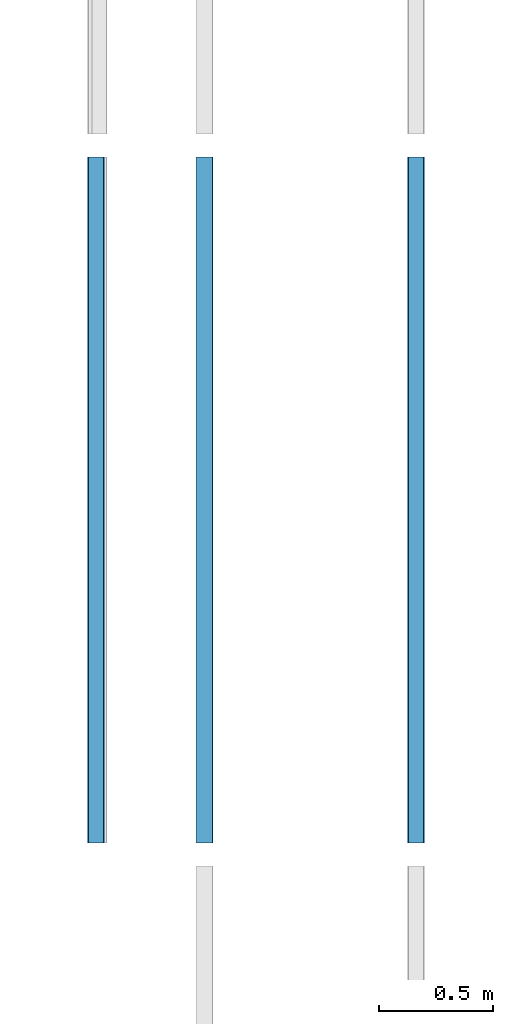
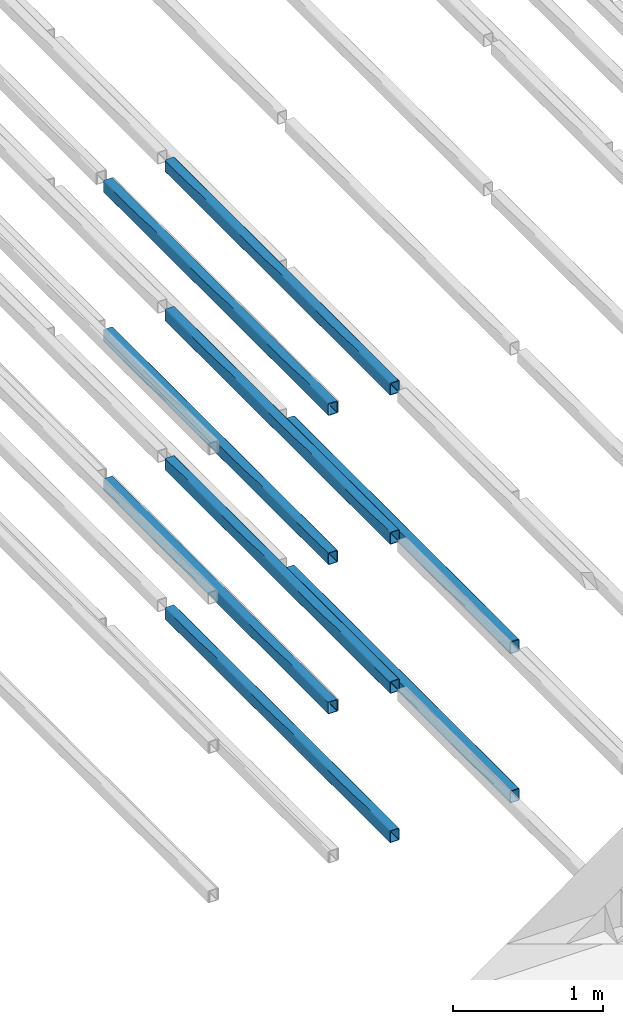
# One storey, part 21 of 290: 9 beams.
"""IFC2X3 building model written with IfcOpenShell, lengths in metres."""

from ifc_helpers import new_model, entity, si_unit, converted_unit, derived_unit, direction, frame, frame_2d, origin, place, context, subcontext, project, spatial, polyline, circle_curve, parameter, trimmed, segment, composite_curve, outline, extrude, material, type_object, element, save


model = new_model("IFC2X3")

# Units and contexts
model_context = context("Model", 3, precision=1e-05, world=origin(), true_north=direction((6.12303176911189e-17, 1.0)))
body_context = subcontext(model_context, "Body", "Model", "MODEL_VIEW")
ifc_project = project(units=[si_unit("LENGTHUNIT", "METRE"), si_unit("AREAUNIT", "SQUARE_METRE"), si_unit("VOLUMEUNIT", "CUBIC_METRE"), converted_unit("PLANEANGLEUNIT", "DEGREE", entity("IfcRatioMeasure", 0.0174532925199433), si_unit("PLANEANGLEUNIT", "RADIAN"), dimensions=[0, 0, 0, 0, 0, 0, 0]), si_unit("MASSUNIT", "GRAM", prefix="KILO"), derived_unit("MASSDENSITYUNIT", [(si_unit("MASSUNIT", "GRAM", prefix="KILO"), 1), (si_unit("LENGTHUNIT", "METRE"), -3)]), derived_unit("MOMENTOFINERTIAUNIT", [(si_unit("LENGTHUNIT", "METRE"), 4)]), si_unit("TIMEUNIT", "SECOND"), si_unit("FREQUENCYUNIT", "HERTZ"), si_unit("THERMODYNAMICTEMPERATUREUNIT", "DEGREE_CELSIUS"), derived_unit("THERMALTRANSMITTANCEUNIT", [(si_unit("MASSUNIT", "GRAM", prefix="KILO"), 1), (si_unit("THERMODYNAMICTEMPERATUREUNIT", "KELVIN"), -1), (si_unit("TIMEUNIT", "SECOND"), -3)]), derived_unit("VOLUMETRICFLOWRATEUNIT", [(si_unit("LENGTHUNIT", "METRE"), 3), (si_unit("TIMEUNIT", "SECOND"), -1)]), si_unit("ELECTRICCURRENTUNIT", "AMPERE"), si_unit("ELECTRICVOLTAGEUNIT", "VOLT"), si_unit("POWERUNIT", "WATT"), si_unit("FORCEUNIT", "NEWTON", prefix="KILO"), si_unit("ILLUMINANCEUNIT", "LUX"), si_unit("LUMINOUSFLUXUNIT", "LUMEN"), si_unit("LUMINOUSINTENSITYUNIT", "CANDELA"), derived_unit("USERDEFINED", [(si_unit("MASSUNIT", "GRAM", prefix="KILO"), -1), (si_unit("LENGTHUNIT", "METRE"), -2), (si_unit("TIMEUNIT", "SECOND"), 3), (si_unit("LUMINOUSFLUXUNIT", "LUMEN"), 1)]), derived_unit("LINEARVELOCITYUNIT", [(si_unit("LENGTHUNIT", "METRE"), 1), (si_unit("TIMEUNIT", "SECOND"), -1)]), si_unit("PRESSUREUNIT", "PASCAL"), derived_unit("USERDEFINED", [(si_unit("LENGTHUNIT", "METRE"), -2), (si_unit("MASSUNIT", "GRAM", prefix="KILO"), 1), (si_unit("TIMEUNIT", "SECOND"), -2)]), derived_unit("LINEARFORCEUNIT", [(si_unit("MASSUNIT", "GRAM", prefix="KILO"), 1), (si_unit("LENGTHUNIT", "METRE"), 1), (si_unit("TIMEUNIT", "SECOND"), -2), (si_unit("LENGTHUNIT", "METRE"), -1)]), derived_unit("PLANARFORCEUNIT", [(si_unit("MASSUNIT", "GRAM", prefix="KILO"), 1), (si_unit("LENGTHUNIT", "METRE"), 1), (si_unit("TIMEUNIT", "SECOND"), -2), (si_unit("LENGTHUNIT", "METRE"), -2)])], contexts=[model_context])

# Site, building, storey
site_placement = place(None, origin())
site = spatial("IfcSite", under=ifc_project, at=site_placement, Name="Default", CompositionType="ELEMENT")
building_placement = place(site_placement, origin())
building = spatial("IfcBuilding", under=site, at=building_placement, CompositionType="ELEMENT")
storey_placement = place(building_placement, frame((0.0, 0.0, 4.0)))
storey = spatial("IfcBuildingStorey", under=building, at=storey_placement, Name="01_OG", CompositionType="ELEMENT", Elevation=4.0)

# Beams
ifc_material = material(Name="Metall - Baustahl S235 blau")
beam_type = type_object("IfcBeamType", Name="RHS Träger (EN 10219-2):RHS 100 x 75 x 5", PredefinedType="NOTDEFINED")
beam_1_placement = place(storey_placement, frame((-200.715111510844, 27.148088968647, -1.2), z_axis=(0.0, 0.0, 1.0), x_axis=(0.0, 1.0, 0.0)))
element("IfcBeam", 1, at=beam_1_placement, inside=storey, type_object=beam_type, material=ifc_material, Name="RHS Träger (EN 10219-2):RHS 100 x 75 x 5", ObjectType="RHS Träger (EN 10219-2):RHS 100 x 75 x 5", context=body_context, shape_type="SweptSolid", body=[
    extrude(outline(composite_curve([segment(trimmed(circle_curve(frame_2d((-0.0274999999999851, -0.0400000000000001), x_axis=(1.0, 0.0)), 0.01), [parameter(180.0)], [parameter(270.0)], True, "PARAMETER"), True, "CONTINUOUS"), segment(polyline([(-0.0274999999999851, -0.05), (0.0274999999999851, -0.05)]), True, "CONTINUOUS"), segment(trimmed(circle_curve(frame_2d((0.0274999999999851, -0.0400000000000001), x_axis=(1.0, 0.0)), 0.01), [parameter(270.0)], [parameter(5.08888749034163e-14)], True, "PARAMETER"), True, "CONTINUOUS"), segment(polyline([(0.0375000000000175, -0.0400000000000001), (0.0375000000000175, 0.0400000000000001)]), True, "CONTINUOUS"), segment(trimmed(circle_curve(frame_2d((0.0274999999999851, 0.0400000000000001), x_axis=(1.0, 0.0)), 0.01), [parameter(360.0)], [parameter(89.9999999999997)], True, "PARAMETER"), True, "CONTINUOUS"), segment(polyline([(0.0274999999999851, 0.05), (-0.0274999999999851, 0.05)]), True, "CONTINUOUS"), segment(trimmed(circle_curve(frame_2d((-0.0274999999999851, 0.0400000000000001), x_axis=(1.0, 0.0)), 0.01), [parameter(90.0000000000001)], [parameter(180.0)], True, "PARAMETER"), True, "CONTINUOUS"), segment(polyline([(-0.0374999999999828, 0.0400000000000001), (-0.0374999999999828, -0.0400000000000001)]), True, "CONTINUOUS")], self_intersect=False), holes=[composite_curve([segment(polyline([(0.0274999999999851, -0.0450000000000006), (-0.0274999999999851, -0.0450000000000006)]), True, "CONTINUOUS"), segment(trimmed(circle_curve(frame_2d((-0.0274999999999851, -0.0400000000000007), x_axis=(1.0, 0.0)), 0.005), [parameter(180.0)], [parameter(270.0)], True, "PARAMETER"), False, "CONTINUOUS"), segment(polyline([(-0.0325000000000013, -0.0400000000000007), (-0.0325000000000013, 0.039999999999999)]), True, "CONTINUOUS"), segment(trimmed(circle_curve(frame_2d((-0.0274999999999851, 0.039999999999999), x_axis=(1.0, 0.0)), 0.005), [parameter(90.0000000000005)], [parameter(180.0)], True, "PARAMETER"), False, "CONTINUOUS"), segment(polyline([(-0.0274999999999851, 0.044999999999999), (0.0274999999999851, 0.044999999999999)]), True, "CONTINUOUS"), segment(trimmed(circle_curve(frame_2d((0.0274999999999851, 0.039999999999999), x_axis=(1.0, 0.0)), 0.005), [parameter(0.0)], [parameter(90.0000000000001)], True, "PARAMETER"), False, "CONTINUOUS"), segment(polyline([(0.0325000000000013, 0.039999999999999), (0.0325000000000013, -0.0400000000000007)]), True, "CONTINUOUS"), segment(trimmed(circle_curve(frame_2d((0.0274999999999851, -0.0400000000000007), x_axis=(1.0, 0.0)), 0.005), [parameter(270.0)], [parameter(4.07110999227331e-13)], True, "PARAMETER"), False, "CONTINUOUS")], self_intersect=False)]), frame((9.99999999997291e-05, 0.0375000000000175, -0.0500000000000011), z_axis=(1.0, 0.0, 0.0), x_axis=(0.0, -1.0, 0.0)), (0.0, 0.0, 1.0), 2.9998),
])
beam_2_placement = place(storey_placement, frame((-200.715111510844, 27.148088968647, 0.0150000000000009), z_axis=(0.0, 0.0, 1.0), x_axis=(0.0, 1.0, 0.0)))
element("IfcBeam", 2, at=beam_2_placement, inside=storey, type_object=beam_type, material=ifc_material, Name="RHS Träger (EN 10219-2):RHS 100 x 75 x 5", ObjectType="RHS Träger (EN 10219-2):RHS 100 x 75 x 5", context=body_context, shape_type="SweptSolid", body=[
    extrude(outline(composite_curve([segment(trimmed(circle_curve(frame_2d((-0.0274999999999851, -0.0400000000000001), x_axis=(1.0, 0.0)), 0.01), [parameter(180.0)], [parameter(270.0)], True, "PARAMETER"), True, "CONTINUOUS"), segment(polyline([(-0.0274999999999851, -0.05), (0.0274999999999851, -0.05)]), True, "CONTINUOUS"), segment(trimmed(circle_curve(frame_2d((0.0274999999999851, -0.0400000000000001), x_axis=(1.0, 0.0)), 0.01), [parameter(270.0)], [parameter(5.08888749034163e-14)], True, "PARAMETER"), True, "CONTINUOUS"), segment(polyline([(0.0375000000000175, -0.0400000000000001), (0.0375000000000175, 0.0400000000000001)]), True, "CONTINUOUS"), segment(trimmed(circle_curve(frame_2d((0.0274999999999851, 0.0400000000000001), x_axis=(1.0, 0.0)), 0.01), [parameter(360.0)], [parameter(89.9999999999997)], True, "PARAMETER"), True, "CONTINUOUS"), segment(polyline([(0.0274999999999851, 0.05), (-0.0274999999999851, 0.05)]), True, "CONTINUOUS"), segment(trimmed(circle_curve(frame_2d((-0.0274999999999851, 0.0400000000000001), x_axis=(1.0, 0.0)), 0.01), [parameter(90.0000000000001)], [parameter(180.0)], True, "PARAMETER"), True, "CONTINUOUS"), segment(polyline([(-0.0374999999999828, 0.0400000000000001), (-0.0374999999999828, -0.0400000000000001)]), True, "CONTINUOUS")], self_intersect=False), holes=[composite_curve([segment(polyline([(0.0274999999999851, -0.0450000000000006), (-0.0274999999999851, -0.0450000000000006)]), True, "CONTINUOUS"), segment(trimmed(circle_curve(frame_2d((-0.0274999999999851, -0.0400000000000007), x_axis=(1.0, 0.0)), 0.005), [parameter(180.0)], [parameter(270.0)], True, "PARAMETER"), False, "CONTINUOUS"), segment(polyline([(-0.0325000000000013, -0.0400000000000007), (-0.0325000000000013, 0.039999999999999)]), True, "CONTINUOUS"), segment(trimmed(circle_curve(frame_2d((-0.0274999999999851, 0.039999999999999), x_axis=(1.0, 0.0)), 0.005), [parameter(90.0000000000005)], [parameter(180.0)], True, "PARAMETER"), False, "CONTINUOUS"), segment(polyline([(-0.0274999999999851, 0.044999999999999), (0.0274999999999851, 0.044999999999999)]), True, "CONTINUOUS"), segment(trimmed(circle_curve(frame_2d((0.0274999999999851, 0.039999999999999), x_axis=(1.0, 0.0)), 0.005), [parameter(0.0)], [parameter(90.0000000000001)], True, "PARAMETER"), False, "CONTINUOUS"), segment(polyline([(0.0325000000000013, 0.039999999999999), (0.0325000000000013, -0.0400000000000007)]), True, "CONTINUOUS"), segment(trimmed(circle_curve(frame_2d((0.0274999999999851, -0.0400000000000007), x_axis=(1.0, 0.0)), 0.005), [parameter(270.0)], [parameter(4.07110999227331e-13)], True, "PARAMETER"), False, "CONTINUOUS")], self_intersect=False)]), frame((9.99999999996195e-05, 0.0375000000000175, -0.0500000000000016), z_axis=(1.0, 0.0, 0.0), x_axis=(0.0, -1.0, 0.0)), (0.0, 0.0, 1.0), 2.9998),
])
beam_3_placement = place(storey_placement, frame((-200.715111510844, 27.148088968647, 1.23), z_axis=(0.0, 0.0, 1.0), x_axis=(0.0, 1.0, 0.0)))
element("IfcBeam", 3, at=beam_3_placement, inside=storey, type_object=beam_type, material=ifc_material, Name="RHS Träger (EN 10219-2):RHS 100 x 75 x 5", ObjectType="RHS Träger (EN 10219-2):RHS 100 x 75 x 5", context=body_context, shape_type="SweptSolid", body=[
    extrude(outline(composite_curve([segment(trimmed(circle_curve(frame_2d((-0.0274999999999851, -0.0399999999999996), x_axis=(1.0, 0.0)), 0.01), [parameter(180.0)], [parameter(270.0)], True, "PARAMETER"), True, "CONTINUOUS"), segment(polyline([(-0.0274999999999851, -0.0499999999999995), (0.0274999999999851, -0.0499999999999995)]), True, "CONTINUOUS"), segment(trimmed(circle_curve(frame_2d((0.0274999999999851, -0.0399999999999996), x_axis=(1.0, 0.0)), 0.01), [parameter(270.0)], [parameter(5.08888749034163e-14)], True, "PARAMETER"), True, "CONTINUOUS"), segment(polyline([(0.0375000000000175, -0.0399999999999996), (0.0375000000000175, 0.0399999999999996)]), True, "CONTINUOUS"), segment(trimmed(circle_curve(frame_2d((0.0274999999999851, 0.0399999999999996), x_axis=(1.0, 0.0)), 0.01), [parameter(360.0)], [parameter(89.9999999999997)], True, "PARAMETER"), True, "CONTINUOUS"), segment(polyline([(0.0274999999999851, 0.0500000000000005), (-0.0274999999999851, 0.0500000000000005)]), True, "CONTINUOUS"), segment(trimmed(circle_curve(frame_2d((-0.0274999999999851, 0.0399999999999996), x_axis=(1.0, 0.0)), 0.01), [parameter(90.0000000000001)], [parameter(180.0)], True, "PARAMETER"), True, "CONTINUOUS"), segment(polyline([(-0.0374999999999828, 0.0399999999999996), (-0.0374999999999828, -0.0399999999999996)]), True, "CONTINUOUS")], self_intersect=False), holes=[composite_curve([segment(polyline([(0.0274999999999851, -0.0450000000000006), (-0.0274999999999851, -0.0450000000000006)]), True, "CONTINUOUS"), segment(trimmed(circle_curve(frame_2d((-0.0274999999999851, -0.0400000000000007), x_axis=(1.0, 0.0)), 0.005), [parameter(180.0)], [parameter(270.0)], True, "PARAMETER"), False, "CONTINUOUS"), segment(polyline([(-0.0325000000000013, -0.0400000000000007), (-0.0325000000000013, 0.0399999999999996)]), True, "CONTINUOUS"), segment(trimmed(circle_curve(frame_2d((-0.0274999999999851, 0.0399999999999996), x_axis=(1.0, 0.0)), 0.005), [parameter(90.0000000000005)], [parameter(180.0)], True, "PARAMETER"), False, "CONTINUOUS"), segment(polyline([(-0.0274999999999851, 0.0449999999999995), (0.0274999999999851, 0.0449999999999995)]), True, "CONTINUOUS"), segment(trimmed(circle_curve(frame_2d((0.0274999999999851, 0.0399999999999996), x_axis=(1.0, 0.0)), 0.005), [parameter(0.0)], [parameter(90.0000000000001)], True, "PARAMETER"), False, "CONTINUOUS"), segment(polyline([(0.0325000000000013, 0.0399999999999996), (0.0325000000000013, -0.0400000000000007)]), True, "CONTINUOUS"), segment(trimmed(circle_curve(frame_2d((0.0274999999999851, -0.0400000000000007), x_axis=(1.0, 0.0)), 0.005), [parameter(270.0)], [parameter(4.07110999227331e-13)], True, "PARAMETER"), False, "CONTINUOUS")], self_intersect=False)]), frame((9.99999999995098e-05, 0.0375000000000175, -0.0500000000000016), z_axis=(1.0, 0.0, 0.0), x_axis=(0.0, -1.0, 0.0)), (0.0, 0.0, 1.0), 2.9998),
])
beam_4_placement = place(storey_placement, frame((-200.715111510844, 27.148088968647, 2.445), z_axis=(0.0, 0.0, 1.0), x_axis=(0.0, 1.0, 0.0)))
element("IfcBeam", 4, at=beam_4_placement, inside=storey, type_object=beam_type, material=ifc_material, Name="RHS Träger (EN 10219-2):RHS 100 x 75 x 5", ObjectType="RHS Träger (EN 10219-2):RHS 100 x 75 x 5", context=body_context, shape_type="SweptSolid", body=[
    extrude(outline(composite_curve([segment(trimmed(circle_curve(frame_2d((-0.0274999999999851, -0.0399999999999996), x_axis=(1.0, 0.0)), 0.01), [parameter(180.0)], [parameter(270.0)], True, "PARAMETER"), True, "CONTINUOUS"), segment(polyline([(-0.0274999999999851, -0.0499999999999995), (0.0274999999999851, -0.0499999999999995)]), True, "CONTINUOUS"), segment(trimmed(circle_curve(frame_2d((0.0274999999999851, -0.0399999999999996), x_axis=(1.0, 0.0)), 0.01), [parameter(270.0)], [parameter(5.08888749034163e-14)], True, "PARAMETER"), True, "CONTINUOUS"), segment(polyline([(0.0375000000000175, -0.0399999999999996), (0.0375000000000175, 0.0399999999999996)]), True, "CONTINUOUS"), segment(trimmed(circle_curve(frame_2d((0.0274999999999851, 0.0399999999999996), x_axis=(1.0, 0.0)), 0.01), [parameter(360.0)], [parameter(89.9999999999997)], True, "PARAMETER"), True, "CONTINUOUS"), segment(polyline([(0.0274999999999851, 0.0500000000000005), (-0.0274999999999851, 0.0500000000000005)]), True, "CONTINUOUS"), segment(trimmed(circle_curve(frame_2d((-0.0274999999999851, 0.0399999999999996), x_axis=(1.0, 0.0)), 0.01), [parameter(90.0000000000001)], [parameter(180.0)], True, "PARAMETER"), True, "CONTINUOUS"), segment(polyline([(-0.0374999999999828, 0.0399999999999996), (-0.0374999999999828, -0.0399999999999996)]), True, "CONTINUOUS")], self_intersect=False), holes=[composite_curve([segment(polyline([(0.0274999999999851, -0.0450000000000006), (-0.0274999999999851, -0.0450000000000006)]), True, "CONTINUOUS"), segment(trimmed(circle_curve(frame_2d((-0.0274999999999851, -0.0400000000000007), x_axis=(1.0, 0.0)), 0.005), [parameter(180.0)], [parameter(270.0)], True, "PARAMETER"), False, "CONTINUOUS"), segment(polyline([(-0.0325000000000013, -0.0400000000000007), (-0.0325000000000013, 0.0399999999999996)]), True, "CONTINUOUS"), segment(trimmed(circle_curve(frame_2d((-0.0274999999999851, 0.0399999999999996), x_axis=(1.0, 0.0)), 0.005), [parameter(90.0000000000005)], [parameter(180.0)], True, "PARAMETER"), False, "CONTINUOUS"), segment(polyline([(-0.0274999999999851, 0.0449999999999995), (0.0274999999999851, 0.0449999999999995)]), True, "CONTINUOUS"), segment(trimmed(circle_curve(frame_2d((0.0274999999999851, 0.0399999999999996), x_axis=(1.0, 0.0)), 0.005), [parameter(0.0)], [parameter(90.0000000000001)], True, "PARAMETER"), False, "CONTINUOUS"), segment(polyline([(0.0325000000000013, 0.0399999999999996), (0.0325000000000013, -0.0400000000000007)]), True, "CONTINUOUS"), segment(trimmed(circle_curve(frame_2d((0.0274999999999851, -0.0400000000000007), x_axis=(1.0, 0.0)), 0.005), [parameter(270.0)], [parameter(4.07110999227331e-13)], True, "PARAMETER"), False, "CONTINUOUS")], self_intersect=False)]), frame((9.99999999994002e-05, 0.0375000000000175, -0.0500000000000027), z_axis=(1.0, 0.0, 0.0), x_axis=(0.0, -1.0, 0.0)), (0.0, 0.0, 1.0), 2.9998),
])
beam_5_placement = place(storey_placement, frame((-199.865111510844, 27.148088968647, -1.2), z_axis=(0.0, 0.0, 1.0), x_axis=(0.0, 1.0, 0.0)))
element("IfcBeam", 5, at=beam_5_placement, inside=storey, type_object=beam_type, material=ifc_material, Name="RHS Träger (EN 10219-2):RHS 100 x 75 x 5", ObjectType="RHS Träger (EN 10219-2):RHS 100 x 75 x 5", context=body_context, shape_type="SweptSolid", body=[
    extrude(outline(composite_curve([segment(polyline([(-0.0400000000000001, -0.0374999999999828), (0.0400000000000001, -0.0374999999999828)]), True, "CONTINUOUS"), segment(trimmed(circle_curve(frame_2d((0.0400000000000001, -0.0274999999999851), x_axis=(0.0, 1.0)), 0.01), [parameter(180.0)], [parameter(270.0)], True, "PARAMETER"), True, "CONTINUOUS"), segment(polyline([(0.05, -0.0274999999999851), (0.05, 0.0274999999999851)]), True, "CONTINUOUS"), segment(trimmed(circle_curve(frame_2d((0.0400000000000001, 0.0274999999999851), x_axis=(0.0, 1.0)), 0.01), [parameter(270.0)], [parameter(4.07110999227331e-13)], True, "PARAMETER"), True, "CONTINUOUS"), segment(polyline([(0.0400000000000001, 0.0375000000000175), (-0.0400000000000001, 0.0375000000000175)]), True, "CONTINUOUS"), segment(trimmed(circle_curve(frame_2d((-0.0400000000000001, 0.0274999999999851), x_axis=(0.0, 1.0)), 0.01), [parameter(360.0)], [parameter(90.0000000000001)], True, "PARAMETER"), True, "CONTINUOUS"), segment(polyline([(-0.05, 0.0274999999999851), (-0.05, -0.0274999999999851)]), True, "CONTINUOUS"), segment(trimmed(circle_curve(frame_2d((-0.0400000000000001, -0.0274999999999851), x_axis=(0.0, 1.0)), 0.01), [parameter(90.0000000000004)], [parameter(180.0)], True, "PARAMETER"), True, "CONTINUOUS")], self_intersect=False), holes=[composite_curve([segment(trimmed(circle_curve(frame_2d((-0.0400000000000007, 0.0274999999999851), x_axis=(0.0, 1.0)), 0.005), [parameter(360.0)], [parameter(89.9999999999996)], True, "PARAMETER"), False, "CONTINUOUS"), segment(polyline([(-0.0400000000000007, 0.0325000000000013), (0.039999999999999, 0.0325000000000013)]), True, "CONTINUOUS"), segment(trimmed(circle_curve(frame_2d((0.039999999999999, 0.0274999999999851), x_axis=(0.0, 1.0)), 0.005), [parameter(270.0)], [parameter(0.0)], True, "PARAMETER"), False, "CONTINUOUS"), segment(polyline([(0.044999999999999, 0.0274999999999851), (0.044999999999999, -0.0274999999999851)]), True, "CONTINUOUS"), segment(trimmed(circle_curve(frame_2d((0.039999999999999, -0.0274999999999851), x_axis=(0.0, 1.0)), 0.005), [parameter(180.0)], [parameter(269.999999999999)], True, "PARAMETER"), False, "CONTINUOUS"), segment(polyline([(0.039999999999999, -0.0325000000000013), (-0.0400000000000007, -0.0325000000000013)]), True, "CONTINUOUS"), segment(trimmed(circle_curve(frame_2d((-0.0400000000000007, -0.0274999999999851), x_axis=(0.0, 1.0)), 0.005), [parameter(90.0000000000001)], [parameter(180.0)], True, "PARAMETER"), False, "CONTINUOUS"), segment(polyline([(-0.0450000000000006, -0.0274999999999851), (-0.0450000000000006, 0.0274999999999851)]), True, "CONTINUOUS")], self_intersect=False)]), frame((9.99999999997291e-05, -0.0375000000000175, -0.0500000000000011), z_axis=(1.0, 0.0, 0.0), x_axis=(0.0, 0.0, -1.0)), (0.0, 0.0, 1.0), 2.9998),
])
beam_6_placement = place(storey_placement, frame((-199.865111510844, 27.148088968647, 0.0150000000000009), z_axis=(0.0, 0.0, 1.0), x_axis=(0.0, 1.0, 0.0)))
element("IfcBeam", 6, at=beam_6_placement, inside=storey, type_object=beam_type, material=ifc_material, Name="RHS Träger (EN 10219-2):RHS 100 x 75 x 5", ObjectType="RHS Träger (EN 10219-2):RHS 100 x 75 x 5", context=body_context, shape_type="SweptSolid", body=[
    extrude(outline(composite_curve([segment(polyline([(-0.0400000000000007, -0.0374999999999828), (0.0399999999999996, -0.0374999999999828)]), True, "CONTINUOUS"), segment(trimmed(circle_curve(frame_2d((0.0399999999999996, -0.0274999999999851), x_axis=(0.0, 1.0)), 0.01), [parameter(180.0)], [parameter(270.0)], True, "PARAMETER"), True, "CONTINUOUS"), segment(polyline([(0.0499999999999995, -0.0274999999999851), (0.0499999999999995, 0.0274999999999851)]), True, "CONTINUOUS"), segment(trimmed(circle_curve(frame_2d((0.0399999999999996, 0.0274999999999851), x_axis=(0.0, 1.0)), 0.01), [parameter(270.0)], [parameter(4.07110999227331e-13)], True, "PARAMETER"), True, "CONTINUOUS"), segment(polyline([(0.0399999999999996, 0.0375000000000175), (-0.0400000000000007, 0.0375000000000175)]), True, "CONTINUOUS"), segment(trimmed(circle_curve(frame_2d((-0.0400000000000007, 0.0274999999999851), x_axis=(0.0, 1.0)), 0.01), [parameter(360.0)], [parameter(90.0000000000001)], True, "PARAMETER"), True, "CONTINUOUS"), segment(polyline([(-0.0500000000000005, 0.0274999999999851), (-0.0500000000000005, -0.0274999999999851)]), True, "CONTINUOUS"), segment(trimmed(circle_curve(frame_2d((-0.0400000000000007, -0.0274999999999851), x_axis=(0.0, 1.0)), 0.01), [parameter(90.0000000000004)], [parameter(180.0)], True, "PARAMETER"), True, "CONTINUOUS")], self_intersect=False), holes=[composite_curve([segment(trimmed(circle_curve(frame_2d((-0.0400000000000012, 0.0274999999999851), x_axis=(0.0, 1.0)), 0.005), [parameter(360.0)], [parameter(89.9999999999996)], True, "PARAMETER"), False, "CONTINUOUS"), segment(polyline([(-0.0400000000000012, 0.0325000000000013), (0.0399999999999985, 0.0325000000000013)]), True, "CONTINUOUS"), segment(trimmed(circle_curve(frame_2d((0.0399999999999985, 0.0274999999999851), x_axis=(0.0, 1.0)), 0.005), [parameter(270.0)], [parameter(0.0)], True, "PARAMETER"), False, "CONTINUOUS"), segment(polyline([(0.0449999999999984, 0.0274999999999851), (0.0449999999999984, -0.0274999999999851)]), True, "CONTINUOUS"), segment(trimmed(circle_curve(frame_2d((0.0399999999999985, -0.0274999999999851), x_axis=(0.0, 1.0)), 0.005), [parameter(180.0)], [parameter(269.999999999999)], True, "PARAMETER"), False, "CONTINUOUS"), segment(polyline([(0.0399999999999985, -0.0325000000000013), (-0.0400000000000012, -0.0325000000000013)]), True, "CONTINUOUS"), segment(trimmed(circle_curve(frame_2d((-0.0400000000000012, -0.0274999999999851), x_axis=(0.0, 1.0)), 0.005), [parameter(90.0000000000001)], [parameter(180.0)], True, "PARAMETER"), False, "CONTINUOUS"), segment(polyline([(-0.0450000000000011, -0.0274999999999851), (-0.0450000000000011, 0.0274999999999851)]), True, "CONTINUOUS")], self_intersect=False)]), frame((9.99999999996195e-05, -0.0375000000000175, -0.0500000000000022), z_axis=(1.0, 0.0, 0.0), x_axis=(0.0, 0.0, -1.0)), (0.0, 0.0, 1.0), 2.9998),
])
beam_7_placement = place(storey_placement, frame((-201.265111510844, 27.148088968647, 0.0150000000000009), z_axis=(0.0, 0.0, 1.0), x_axis=(0.0, 1.0, 0.0)))
element("IfcBeam", 7, at=beam_7_placement, inside=storey, type_object=beam_type, material=ifc_material, Name="RHS Träger (EN 10219-2):RHS 100 x 75 x 5", ObjectType="RHS Träger (EN 10219-2):RHS 100 x 75 x 5", context=body_context, shape_type="SweptSolid", body=[
    extrude(outline(composite_curve([segment(polyline([(-0.0400000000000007, -0.0374999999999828), (0.0399999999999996, -0.0374999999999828)]), True, "CONTINUOUS"), segment(trimmed(circle_curve(frame_2d((0.0399999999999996, -0.0274999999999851), x_axis=(0.0, 1.0)), 0.01), [parameter(180.0)], [parameter(270.0)], True, "PARAMETER"), True, "CONTINUOUS"), segment(polyline([(0.0499999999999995, -0.0274999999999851), (0.0499999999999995, 0.0274999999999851)]), True, "CONTINUOUS"), segment(trimmed(circle_curve(frame_2d((0.0399999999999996, 0.0274999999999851), x_axis=(0.0, 1.0)), 0.01), [parameter(270.0)], [parameter(4.07110999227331e-13)], True, "PARAMETER"), True, "CONTINUOUS"), segment(polyline([(0.0399999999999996, 0.0375000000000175), (-0.0400000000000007, 0.0375000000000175)]), True, "CONTINUOUS"), segment(trimmed(circle_curve(frame_2d((-0.0400000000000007, 0.0274999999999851), x_axis=(0.0, 1.0)), 0.01), [parameter(360.0)], [parameter(90.0000000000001)], True, "PARAMETER"), True, "CONTINUOUS"), segment(polyline([(-0.0500000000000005, 0.0274999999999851), (-0.0500000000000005, -0.0274999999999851)]), True, "CONTINUOUS"), segment(trimmed(circle_curve(frame_2d((-0.0400000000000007, -0.0274999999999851), x_axis=(0.0, 1.0)), 0.01), [parameter(90.0000000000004)], [parameter(180.0)], True, "PARAMETER"), True, "CONTINUOUS")], self_intersect=False), holes=[composite_curve([segment(trimmed(circle_curve(frame_2d((-0.0400000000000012, 0.0274999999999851), x_axis=(0.0, 1.0)), 0.005), [parameter(360.0)], [parameter(89.9999999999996)], True, "PARAMETER"), False, "CONTINUOUS"), segment(polyline([(-0.0400000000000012, 0.0325000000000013), (0.0399999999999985, 0.0325000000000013)]), True, "CONTINUOUS"), segment(trimmed(circle_curve(frame_2d((0.0399999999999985, 0.0274999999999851), x_axis=(0.0, 1.0)), 0.005), [parameter(270.0)], [parameter(0.0)], True, "PARAMETER"), False, "CONTINUOUS"), segment(polyline([(0.0449999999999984, 0.0274999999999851), (0.0449999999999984, -0.0274999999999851)]), True, "CONTINUOUS"), segment(trimmed(circle_curve(frame_2d((0.0399999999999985, -0.0274999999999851), x_axis=(0.0, 1.0)), 0.005), [parameter(180.0)], [parameter(269.999999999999)], True, "PARAMETER"), False, "CONTINUOUS"), segment(polyline([(0.0399999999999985, -0.0325000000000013), (-0.0400000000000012, -0.0325000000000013)]), True, "CONTINUOUS"), segment(trimmed(circle_curve(frame_2d((-0.0400000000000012, -0.0274999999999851), x_axis=(0.0, 1.0)), 0.005), [parameter(90.0000000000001)], [parameter(180.0)], True, "PARAMETER"), False, "CONTINUOUS"), segment(polyline([(-0.0450000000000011, -0.0274999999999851), (-0.0450000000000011, 0.0274999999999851)]), True, "CONTINUOUS")], self_intersect=False)]), frame((0.000100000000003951, -0.0375000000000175, -0.0500000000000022), z_axis=(1.0, 0.0, 0.0), x_axis=(0.0, 0.0, -1.0)), (0.0, 0.0, 1.0), 2.9998),
])
beam_8_placement = place(storey_placement, frame((-201.265111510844, 27.148088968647, 1.23), z_axis=(0.0, 0.0, 1.0), x_axis=(0.0, 1.0, 0.0)))
element("IfcBeam", 8, at=beam_8_placement, inside=storey, type_object=beam_type, material=ifc_material, Name="RHS Träger (EN 10219-2):RHS 100 x 75 x 5", ObjectType="RHS Träger (EN 10219-2):RHS 100 x 75 x 5", context=body_context, shape_type="SweptSolid", body=[
    extrude(outline(composite_curve([segment(polyline([(-0.0399999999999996, -0.0374999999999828), (0.0399999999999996, -0.0374999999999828)]), True, "CONTINUOUS"), segment(trimmed(circle_curve(frame_2d((0.0399999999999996, -0.0274999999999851), x_axis=(0.0, 1.0)), 0.01), [parameter(180.0)], [parameter(270.0)], True, "PARAMETER"), True, "CONTINUOUS"), segment(polyline([(0.0500000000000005, -0.0274999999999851), (0.0500000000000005, 0.0274999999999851)]), True, "CONTINUOUS"), segment(trimmed(circle_curve(frame_2d((0.0399999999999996, 0.0274999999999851), x_axis=(0.0, 1.0)), 0.01), [parameter(270.0)], [parameter(4.07110999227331e-13)], True, "PARAMETER"), True, "CONTINUOUS"), segment(polyline([(0.0399999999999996, 0.0375000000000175), (-0.0399999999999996, 0.0375000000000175)]), True, "CONTINUOUS"), segment(trimmed(circle_curve(frame_2d((-0.0399999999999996, 0.0274999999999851), x_axis=(0.0, 1.0)), 0.01), [parameter(360.0)], [parameter(90.0000000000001)], True, "PARAMETER"), True, "CONTINUOUS"), segment(polyline([(-0.0499999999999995, 0.0274999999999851), (-0.0499999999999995, -0.0274999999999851)]), True, "CONTINUOUS"), segment(trimmed(circle_curve(frame_2d((-0.0399999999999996, -0.0274999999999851), x_axis=(0.0, 1.0)), 0.01), [parameter(90.0000000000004)], [parameter(180.0)], True, "PARAMETER"), True, "CONTINUOUS")], self_intersect=False), holes=[composite_curve([segment(trimmed(circle_curve(frame_2d((-0.0400000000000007, 0.0274999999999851), x_axis=(0.0, 1.0)), 0.005), [parameter(360.0)], [parameter(89.9999999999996)], True, "PARAMETER"), False, "CONTINUOUS"), segment(polyline([(-0.0400000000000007, 0.0325000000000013), (0.0399999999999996, 0.0325000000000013)]), True, "CONTINUOUS"), segment(trimmed(circle_curve(frame_2d((0.0399999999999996, 0.0274999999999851), x_axis=(0.0, 1.0)), 0.005), [parameter(270.0)], [parameter(0.0)], True, "PARAMETER"), False, "CONTINUOUS"), segment(polyline([(0.0449999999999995, 0.0274999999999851), (0.0449999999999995, -0.0274999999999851)]), True, "CONTINUOUS"), segment(trimmed(circle_curve(frame_2d((0.0399999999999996, -0.0274999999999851), x_axis=(0.0, 1.0)), 0.005), [parameter(180.0)], [parameter(269.999999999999)], True, "PARAMETER"), False, "CONTINUOUS"), segment(polyline([(0.0399999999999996, -0.0325000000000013), (-0.0400000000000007, -0.0325000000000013)]), True, "CONTINUOUS"), segment(trimmed(circle_curve(frame_2d((-0.0400000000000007, -0.0274999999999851), x_axis=(0.0, 1.0)), 0.005), [parameter(90.0000000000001)], [parameter(180.0)], True, "PARAMETER"), False, "CONTINUOUS"), segment(polyline([(-0.0450000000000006, -0.0274999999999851), (-0.0450000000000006, 0.0274999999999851)]), True, "CONTINUOUS")], self_intersect=False)]), frame((0.000100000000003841, -0.0375000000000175, -0.0500000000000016), z_axis=(1.0, 0.0, 0.0), x_axis=(0.0, 0.0, -1.0)), (0.0, 0.0, 1.0), 2.9998),
])
beam_9_placement = place(storey_placement, frame((-201.265111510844, 27.148088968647, 2.445), z_axis=(0.0, 0.0, 1.0), x_axis=(0.0, 1.0, 0.0)))
element("IfcBeam", 9, at=beam_9_placement, inside=storey, type_object=beam_type, material=ifc_material, Name="RHS Träger (EN 10219-2):RHS 100 x 75 x 5", ObjectType="RHS Träger (EN 10219-2):RHS 100 x 75 x 5", context=body_context, shape_type="SweptSolid", body=[
    extrude(outline(composite_curve([segment(polyline([(-0.0399999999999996, -0.0374999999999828), (0.0399999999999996, -0.0374999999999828)]), True, "CONTINUOUS"), segment(trimmed(circle_curve(frame_2d((0.0399999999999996, -0.0274999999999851), x_axis=(0.0, 1.0)), 0.01), [parameter(180.0)], [parameter(270.0)], True, "PARAMETER"), True, "CONTINUOUS"), segment(polyline([(0.0500000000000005, -0.0274999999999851), (0.0500000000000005, 0.0274999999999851)]), True, "CONTINUOUS"), segment(trimmed(circle_curve(frame_2d((0.0399999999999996, 0.0274999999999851), x_axis=(0.0, 1.0)), 0.01), [parameter(270.0)], [parameter(4.07110999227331e-13)], True, "PARAMETER"), True, "CONTINUOUS"), segment(polyline([(0.0399999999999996, 0.0375000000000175), (-0.0399999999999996, 0.0375000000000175)]), True, "CONTINUOUS"), segment(trimmed(circle_curve(frame_2d((-0.0399999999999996, 0.0274999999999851), x_axis=(0.0, 1.0)), 0.01), [parameter(360.0)], [parameter(90.0000000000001)], True, "PARAMETER"), True, "CONTINUOUS"), segment(polyline([(-0.0499999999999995, 0.0274999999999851), (-0.0499999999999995, -0.0274999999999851)]), True, "CONTINUOUS"), segment(trimmed(circle_curve(frame_2d((-0.0399999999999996, -0.0274999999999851), x_axis=(0.0, 1.0)), 0.01), [parameter(90.0000000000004)], [parameter(180.0)], True, "PARAMETER"), True, "CONTINUOUS")], self_intersect=False), holes=[composite_curve([segment(trimmed(circle_curve(frame_2d((-0.0400000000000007, 0.0274999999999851), x_axis=(0.0, 1.0)), 0.005), [parameter(360.0)], [parameter(89.9999999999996)], True, "PARAMETER"), False, "CONTINUOUS"), segment(polyline([(-0.0400000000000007, 0.0325000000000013), (0.0399999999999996, 0.0325000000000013)]), True, "CONTINUOUS"), segment(trimmed(circle_curve(frame_2d((0.0399999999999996, 0.0274999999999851), x_axis=(0.0, 1.0)), 0.005), [parameter(270.0)], [parameter(0.0)], True, "PARAMETER"), False, "CONTINUOUS"), segment(polyline([(0.0449999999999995, 0.0274999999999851), (0.0449999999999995, -0.0274999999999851)]), True, "CONTINUOUS"), segment(trimmed(circle_curve(frame_2d((0.0399999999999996, -0.0274999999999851), x_axis=(0.0, 1.0)), 0.005), [parameter(180.0)], [parameter(269.999999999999)], True, "PARAMETER"), False, "CONTINUOUS"), segment(polyline([(0.0399999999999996, -0.0325000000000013), (-0.0400000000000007, -0.0325000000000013)]), True, "CONTINUOUS"), segment(trimmed(circle_curve(frame_2d((-0.0400000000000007, -0.0274999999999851), x_axis=(0.0, 1.0)), 0.005), [parameter(90.0000000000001)], [parameter(180.0)], True, "PARAMETER"), False, "CONTINUOUS"), segment(polyline([(-0.0450000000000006, -0.0274999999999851), (-0.0450000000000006, 0.0274999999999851)]), True, "CONTINUOUS")], self_intersect=False)]), frame((0.000100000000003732, -0.0375000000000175, -0.0500000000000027), z_axis=(1.0, 0.0, 0.0), x_axis=(0.0, 0.0, -1.0)), (0.0, 0.0, 1.0), 2.9998),
])

save(model, "model.ifc")
